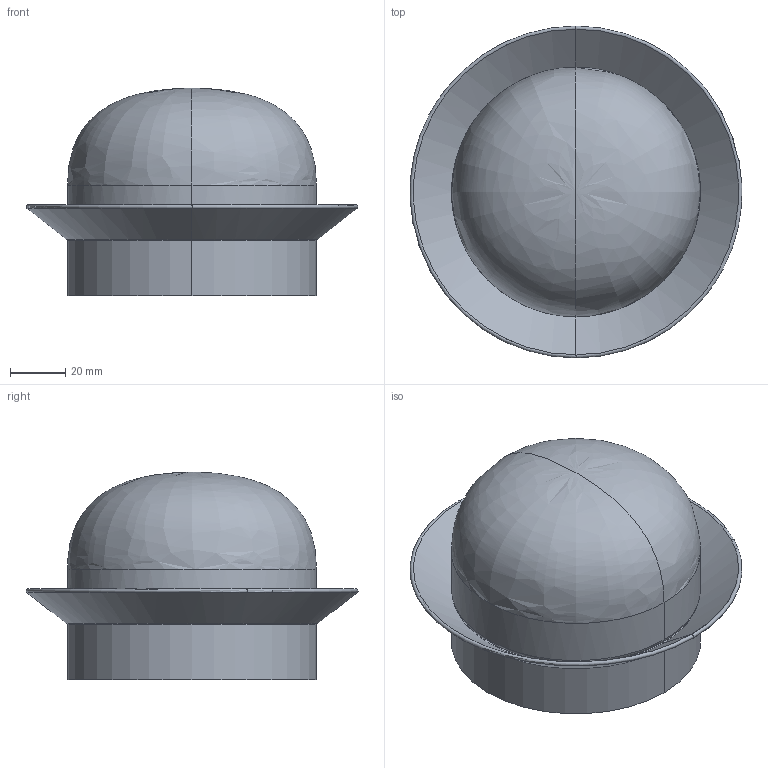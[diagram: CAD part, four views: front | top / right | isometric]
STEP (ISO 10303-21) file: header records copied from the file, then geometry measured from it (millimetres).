
FILE_DESCRIPTION(/* description */ (''),/* implementation_level */ '2;1');
FILE_NAME(/* name */ 'C:\Users\FrancoSartori\Documents\FARO\01_En Proceso\0000_2022\00_MAY\03_Publicación\40099.stp',/* time_stamp */ '2021-10-29T09:26:17+02:00',/* author */ ('FrancoSartori'),/* organization */ (''),/* preprocessor_version */ 'ST-DEVELOPER v18.1',/* originating_system */ 'AutoCAD Mechanical',/* authorisation */ '');
FILE_SCHEMA (('AUTOMOTIVE_DESIGN { 1 0 10303 214 3 1 1 }'));
Length unit declared in the file: millimetre
Products named in the file (2): Product; MAY_ - lamp-204281-Export
Assembly tree (1 placements, depth 2):
  Product
    MAY_ - lamp-204281-Export
Bounding box: 119.8 x 119.98 x 75 mm (x, y, z)
Volume: 103484 mm3; surface area: 84380.8 mm2
Topology: 4 solids, 4 shells, 64 faces, 176 edges, 108 vertices
Faces by surface type: cylinder 24, plane 20, cone 8, torus 8, bspline 4
Entity records: 3488 total; most frequent: CARTESIAN_POINT 1915, ORIENTED_EDGE 344, DIRECTION 288, EDGE_CURVE 172, AXIS2_PLACEMENT_3D 117, VERTEX_POINT 108, EDGE_LOOP 66, B_SPLINE_CURVE_WITH_KNOTS 64
